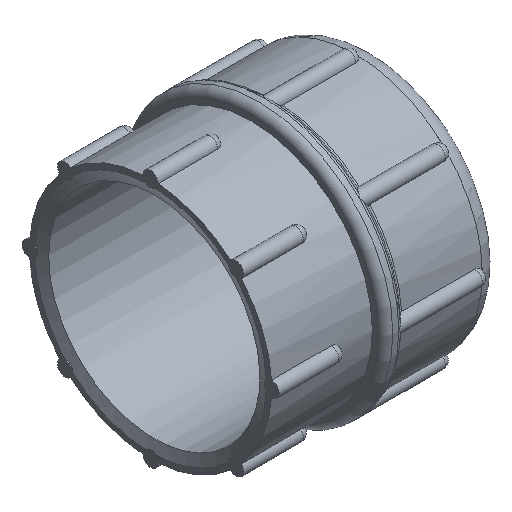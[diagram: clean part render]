
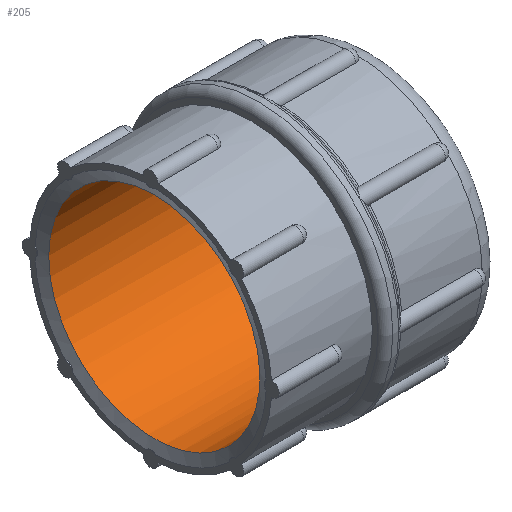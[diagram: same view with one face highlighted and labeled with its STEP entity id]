
A CAD part, isometric view. The second image highlights one B-rep face of the part: STEP entity #205.
In plain terms, the highlighted cylindrical face has radius 28.328 mm (diameter 56.656 mm), a full revolution.
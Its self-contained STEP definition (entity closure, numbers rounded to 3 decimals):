
#205 = ADVANCED_FACE( '', ( #449, #450 ), #451, .F. );
#449 = FACE_OUTER_BOUND( '', #740, .T. );
#450 = FACE_OUTER_BOUND( '', #741, .T. );
#451 = CYLINDRICAL_SURFACE( '', #742, 28.328 );
#740 = EDGE_LOOP( '', ( #1274 ) );
#741 = EDGE_LOOP( '', ( #1275 ) );
#742 = AXIS2_PLACEMENT_3D( '', #1276, #1277, #1278 );
#1274 = ORIENTED_EDGE( '', *, *, #1866, .T. );
#1275 = ORIENTED_EDGE( '', *, *, #1867, .F. );
#1276 = CARTESIAN_POINT( '', ( 61., 0., 0. ) );
#1277 = DIRECTION( '', ( -1., 0., 0. ) );
#1278 = DIRECTION( '', ( 0., 1., 0. ) );
#1866 = EDGE_CURVE( '', #2286, #2286, #2287, .T. );
#1867 = EDGE_CURVE( '', #2288, #2288, #2289, .T. );
#2286 = VERTEX_POINT( '', #3472 );
#2287 = CIRCLE( '', #3473, 28.328 );
#2288 = VERTEX_POINT( '', #3474 );
#2289 = CIRCLE( '', #3475, 28.328 );
#3472 = CARTESIAN_POINT( '', ( 49., 28.328, 0. ) );
#3473 = AXIS2_PLACEMENT_3D( '', #4016, #4017, #4018 );
#3474 = CARTESIAN_POINT( '', ( 1., 28.328, 0. ) );
#3475 = AXIS2_PLACEMENT_3D( '', #4019, #4020, #4021 );
#4016 = CARTESIAN_POINT( '', ( 49., 0., 0. ) );
#4017 = DIRECTION( '', ( 1., 0., 0. ) );
#4018 = DIRECTION( '', ( 0., 1., 0. ) );
#4019 = CARTESIAN_POINT( '', ( 1., 0., 0. ) );
#4020 = DIRECTION( '', ( 1., 0., 0. ) );
#4021 = DIRECTION( '', ( 0., 1., 0. ) );
